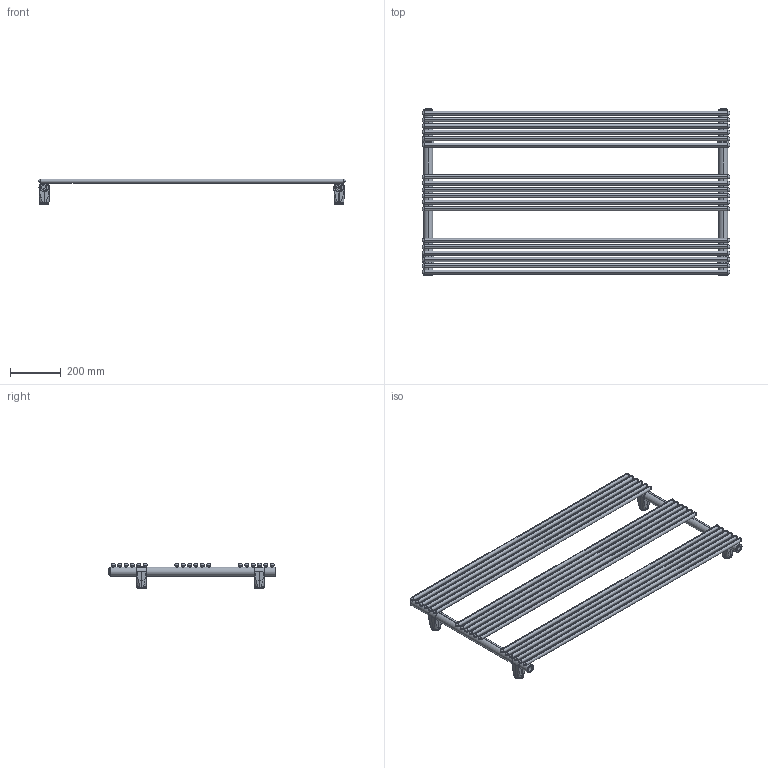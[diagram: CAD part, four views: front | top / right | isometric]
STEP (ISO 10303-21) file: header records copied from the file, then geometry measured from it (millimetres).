
FILE_DESCRIPTION (( 'STEP AP203' ), '1' );
FILE_NAME ('N06X3S1210.STEP', '2026-03-05T13:13:24', ( '' ), ( '' ), 'SwSTEP 2.0', 'SolidWorks 2025', '' );
FILE_SCHEMA (( 'CONFIG_CONTROL_DESIGN' ));
Length unit declared in the file: millimetre
Products named in the file (10): TRAVERSINO TONDO 16 [Con configurazioni]_1210; tappo_sx.prt; supporto.asm; tappo_sfiato.prt; supporto_3.prt; supporto-MANINA-BUS; supporto_1.prt; supporto_2.prt; COLLETTORE INT 25 [Con configurazioni]_653 BAGNO; N06X3S1210
Assembly tree (30 placements, depth 4):
  N06X3S1210
    TRAVERSINO TONDO 16 [Con configurazioni]_1210  x18
    COLLETTORE INT 25 [Con configurazioni]_653 BAGNO  x2
    tappo_sfiato.prt
    tappo_sx.prt
    supporto-MANINA-BUS  x4
      supporto.asm
        supporto_1.prt
        supporto_2.prt
        supporto_3.prt
Bounding box: 1210 x 659 x 102 mm (x, y, z)
Volume: 1938217.5 mm3; surface area: 2362218.9 mm2
Topology: 32 solids, 36 shells, 1373 faces, 3708 edges, 2149 vertices
Faces by surface type: cylinder 492, bspline 337, plane 214, sphere 200, torus 128, cone 2
Entity records: 30064 total; most frequent: CARTESIAN_POINT 19372, ORIENTED_EDGE 2244, DIRECTION 1354, EDGE_CURVE 1126, VERTEX_POINT 679, B_SPLINE_CURVE_WITH_KNOTS 645, AXIS2_PLACEMENT_3D 559, EDGE_LOOP 448
